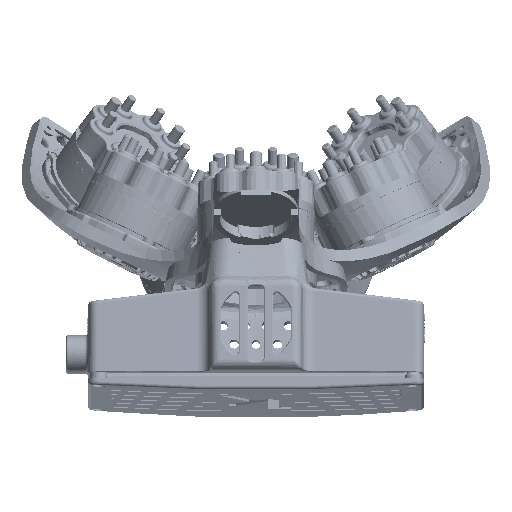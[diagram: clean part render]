
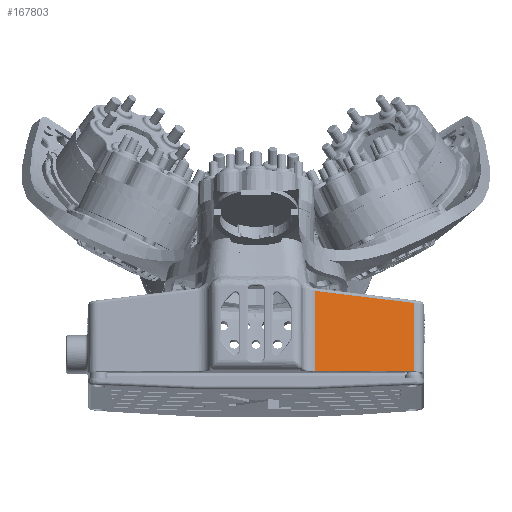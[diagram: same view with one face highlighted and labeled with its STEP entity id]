
A CAD part, front view. The second image highlights one B-rep face of the part: STEP entity #167803.
In plain terms, the highlighted planar face has unit normal (0, -0.99, 0.141).
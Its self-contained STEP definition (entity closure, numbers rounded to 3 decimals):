
#61979 = CARTESIAN_POINT ( 'NONE',  ( 50., -26.62, -151.793 ) ) ;
#62587 = VECTOR ( 'NONE', #315562, 1000. ) ;
#65093 = CARTESIAN_POINT ( 'NONE',  ( 18.5, -26.634, -151.892 ) ) ;
#91641 = CARTESIAN_POINT ( 'NONE',  ( 50., -26.634, -151.892 ) ) ;
#115362 = ORIENTED_EDGE ( 'NONE', *, *, #118765, .T. ) ;
#117274 = CARTESIAN_POINT ( 'NONE',  ( 29., -26.62, -151.793 ) ) ;
#118765 = EDGE_CURVE ( 'NONE', #121991, #349408, #231633, .T. ) ;
#121991 = VERTEX_POINT ( 'NONE', #147566 ) ;
#131224 = B_SPLINE_CURVE_WITH_KNOTS ( 'NONE', 3,
 ( #207385, #117274, #233238, #61979 ),
 .UNSPECIFIED., .F., .F.,
 ( 4, 4 ),
 ( -0.103, -0.072 ),
 .UNSPECIFIED. ) ;
#133074 = CARTESIAN_POINT ( 'NONE',  ( 50., -23.542, -130.217 ) ) ;
#137195 = CARTESIAN_POINT ( 'NONE',  ( 18.346, -22.992, -126.364 ) ) ;
#147566 = CARTESIAN_POINT ( 'NONE',  ( 50., -26.62, -151.793 ) ) ;
#162196 = CARTESIAN_POINT ( 'NONE',  ( 18.5, -22.995, -126.383 ) ) ;
#166616 = DIRECTION ( 'NONE',  ( -0.993, 0.017, 0.121 ) ) ;
#167803 = ADVANCED_FACE ( 'NONE', ( #177953 ), #290312, .F. ) ;
#168408 = LINE ( 'NONE', #137195, #216674 ) ;
#177953 = FACE_OUTER_BOUND ( 'NONE', #219167, .T. ) ;
#203970 = DIRECTION ( 'NONE',  ( 0., 0.141, 0.99 ) ) ;
#207385 = CARTESIAN_POINT ( 'NONE',  ( 18.5, -26.62, -151.793 ) ) ;
#216535 = DIRECTION ( 'NONE',  ( 0., 0.99, -0.141 ) ) ;
#216674 = VECTOR ( 'NONE', #166616, 1000. ) ;
#219167 = EDGE_LOOP ( 'NONE', ( #342858, #353057, #115362, #266964 ) ) ;
#220498 = VERTEX_POINT ( 'NONE', #255300 ) ;
#226647 = EDGE_CURVE ( 'NONE', #220498, #121991, #131224, .T. ) ;
#231633 = LINE ( 'NONE', #91641, #309171 ) ;
#233238 = CARTESIAN_POINT ( 'NONE',  ( 39.5, -26.62, -151.793 ) ) ;
#249590 = DIRECTION ( 'NONE',  ( -1., 0., 0. ) ) ;
#255300 = CARTESIAN_POINT ( 'NONE',  ( 18.5, -26.62, -151.793 ) ) ;
#266964 = ORIENTED_EDGE ( 'NONE', *, *, #307036, .T. ) ;
#290312 = PLANE ( 'NONE',  #336203 ) ;
#307036 = EDGE_CURVE ( 'NONE', #349408, #314804, #168408, .T. ) ;
#309171 = VECTOR ( 'NONE', #203970, 1000. ) ;
#313745 = LINE ( 'NONE', #65093, #62587 ) ;
#314804 = VERTEX_POINT ( 'NONE', #162196 ) ;
#315562 = DIRECTION ( 'NONE',  ( 0., -0.141, -0.99 ) ) ;
#336203 = AXIS2_PLACEMENT_3D ( 'NONE', #358236, #216535, #249590 ) ;
#341549 = EDGE_CURVE ( 'NONE', #314804, #220498, #313745, .T. ) ;
#342858 = ORIENTED_EDGE ( 'NONE', *, *, #341549, .T. ) ;
#349408 = VERTEX_POINT ( 'NONE', #133074 ) ;
#353057 = ORIENTED_EDGE ( 'NONE', *, *, #226647, .T. ) ;
#358236 = CARTESIAN_POINT ( 'NONE',  ( 53., -26.634, -151.892 ) ) ;
